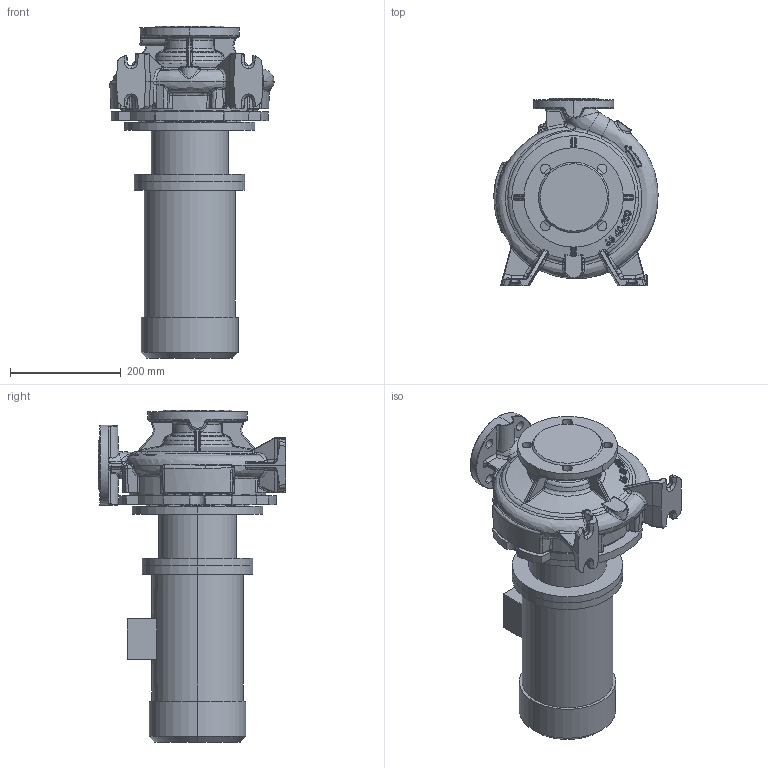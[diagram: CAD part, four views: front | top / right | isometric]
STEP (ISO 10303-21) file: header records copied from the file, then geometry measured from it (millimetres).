
FILE_DESCRIPTION (( 'STEP AP214' ), '1' );
FILE_NAME ('KRM 65-40-200-4-1,5.STEP', '2026-04-24T09:10:23', ( '' ), ( '' ), 'SwSTEP 2.0', 'SolidWorks 2016', '' );
FILE_SCHEMA (( 'AUTOMOTIVE_DESIGN' ));
Length unit declared in the file: millimetre
Products named in the file (1): KRM 65-40-200-4-1,5
Bounding box: 297.3 x 340 x 600.8 mm (x, y, z)
Volume: 17699002 mm3; surface area: 953952.2 mm2
Topology: 4 solids, 4 shells, 1118 faces, 2713 edges, 1612 vertices
Faces by surface type: bspline 511, cylinder 210, plane 197, cone 90, torus 82, sphere 28
Entity records: 83378 total; most frequent: CARTESIAN_POINT 49066, ORIENTED_EDGE 5384, DIRECTION 3534, EDGE_CURVE 2692, VERTEX_POINT 1612, AXIS2_PLACEMENT_3D 1493, EDGE_LOOP 1164, UNCERTAINTY_MEASURE_WITH_UNIT 1124
